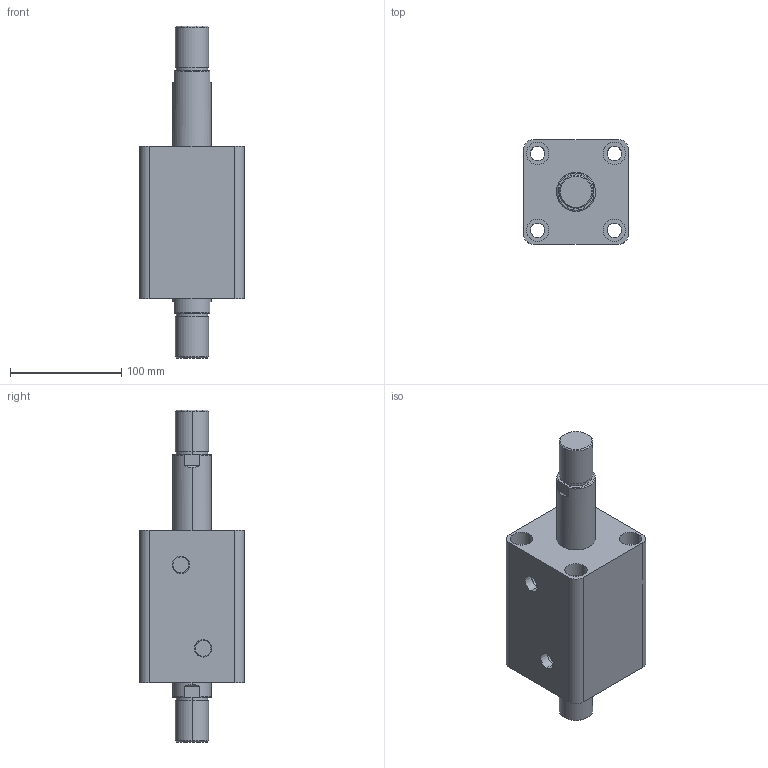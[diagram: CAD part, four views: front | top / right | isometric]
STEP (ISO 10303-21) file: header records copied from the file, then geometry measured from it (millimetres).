
FILE_DESCRIPTION (( 'STEP AP203' ), '1' );
FILE_NAME ('HTB-SW63-55W.STEP', '2019-10-07T10:06:10', ( '微软用户' ), ( '微软中国' ), 'SwSTEP 2.0', 'SolidWorks 2012', '' );
FILE_SCHEMA (( 'CONFIG_CONTROL_DESIGN' ));
Length unit declared in the file: millimetre
Products named in the file (3): HTB-SW63-55W; HTB-SW63-55W活塞杆; HTB-SW63-55掛极
Assembly tree (2 placements, depth 2):
  HTB-SW63-55W
    HTB-SW63-55掛极
    HTB-SW63-55W活塞杆
Bounding box: 94 x 94 x 298 mm (x, y, z)
Volume: 1120334.1 mm3; surface area: 154872.7 mm2
Topology: 2 solids, 2 shells, 108 faces, 240 edges, 156 vertices
Faces by surface type: cylinder 52, plane 36, torus 12, cone 8
Entity records: 3465 total; most frequent: CARTESIAN_POINT 645, DIRECTION 586, ORIENTED_EDGE 480, AXIS2_PLACEMENT_3D 249, EDGE_CURVE 240, VERTEX_POINT 156, EDGE_LOOP 138, CIRCLE 136
